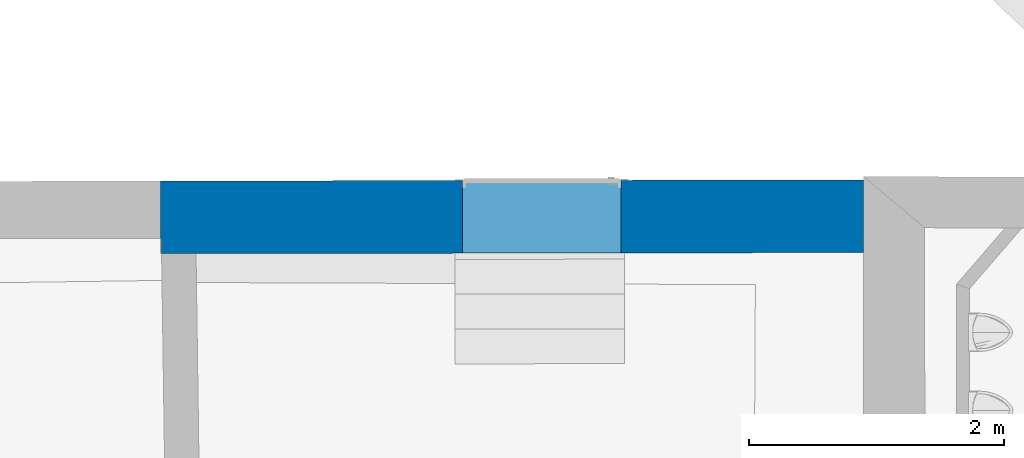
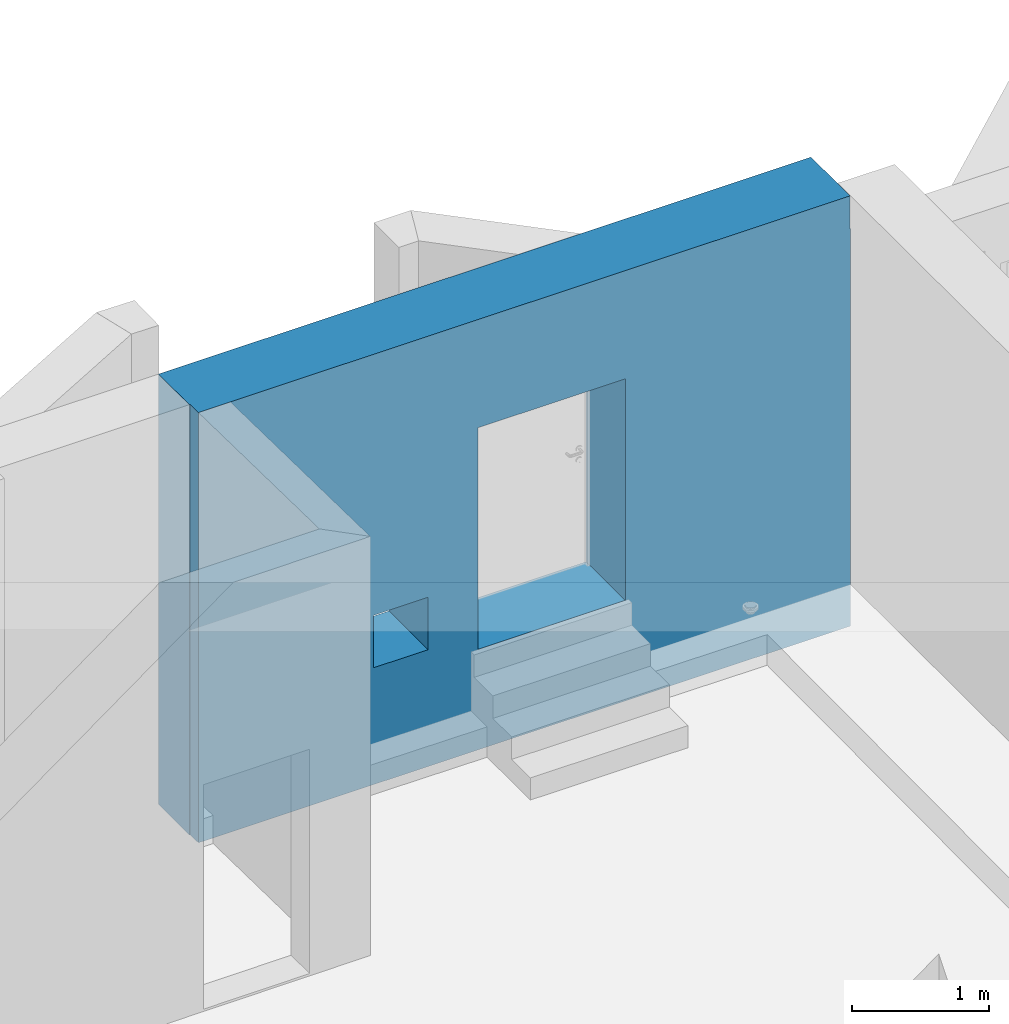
# One storey, part 102 of 196: 1 wall, 2 openings.
"""IFC2X3 building model written with IfcOpenShell, lengths in metres."""

from ifc_helpers import new_model, entity, si_unit, converted_unit, derived_unit, money_unit, direction, frame, origin_with_axes, origin_2d_with_axis, place, context, subcontext, project, spatial, polyline, rectangle, outline, extrude, boolean, faceted_brep, material, type_object, element, save


model = new_model("IFC2X3")

# Units and contexts
model_context = context("Model", 3, precision=1e-05, world=origin_with_axes(), true_north=direction((0.0, 1.0)))
body_context = subcontext(model_context, "Body", "Model", "MODEL_VIEW")
ifc_project = project(units=[si_unit("LENGTHUNIT", "METRE"), si_unit("AREAUNIT", "SQUARE_METRE"), si_unit("VOLUMEUNIT", "CUBIC_METRE"), converted_unit("PLANEANGLEUNIT", "DEGREE", entity("IfcPlaneAngleMeasure", 0.0174532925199), si_unit("PLANEANGLEUNIT", "RADIAN"), dimensions=[0, 0, 0, 0, 0, 0, 0]), money_unit("EUR"), converted_unit("TIMEUNIT", "Year", entity("IfcTimeMeasure", 31556926.0), si_unit("TIMEUNIT", "SECOND"), dimensions=[0, 0, 1, 0, 0, 0, 0]), si_unit("MASSUNIT", "GRAM", prefix="KILO"), si_unit("THERMODYNAMICTEMPERATUREUNIT", "DEGREE_CELSIUS"), si_unit("LUMINOUSINTENSITYUNIT", "LUMEN"), si_unit("ENERGYUNIT", "JOULE", prefix="MEGA"), derived_unit("THERMALCONDUCTANCEUNIT", [(si_unit("POWERUNIT", "WATT"), 1), (si_unit("LENGTHUNIT", "METRE"), -1), (si_unit("THERMODYNAMICTEMPERATUREUNIT", "KELVIN"), -1)]), derived_unit("SPECIFICHEATCAPACITYUNIT", [(si_unit("ENERGYUNIT", "JOULE"), 1), (si_unit("MASSUNIT", "GRAM", prefix="KILO"), -1), (si_unit("THERMODYNAMICTEMPERATUREUNIT", "KELVIN"), -1)]), derived_unit("MASSDENSITYUNIT", [(si_unit("MASSUNIT", "GRAM", prefix="KILO"), 1), (si_unit("VOLUMEUNIT", "CUBIC_METRE"), -1)])], contexts=[model_context])

# Site, building, storey
site_placement = place(None, origin_with_axes())
site = spatial("IfcSite", under=ifc_project, at=site_placement, Name="Gelände", CompositionType="ELEMENT")
building_placement = place(site_placement, origin_with_axes())
building = spatial("IfcBuilding", under=site, at=building_placement, Name="Gebäude", CompositionType="ELEMENT")
storey_placement = place(building_placement, frame((0.0, 0.0, -3.0), z_axis=(0.0, 0.0, 1.0), x_axis=(1.0, 0.0, 0.0)))
storey = spatial("IfcBuildingStorey", under=building, at=storey_placement, Name="KELLERGESCHOSS", CompositionType="ELEMENT", Elevation=-3.0)

# Wall, openings
ifc_material = material(Name="05_ALLGEMEIN - TRAGENDE BAUTEILE")
wall_type = type_object("IfcWallType", Name="05_ALLGEMEIN - TRAGENDE BAUTEILE 570", PredefinedType="ELEMENTEDWALL")
wall_placement = place(storey_placement, frame((12.5419676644, 26.2027547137, -0.36), z_axis=(0.0, 0.0, 1.0), x_axis=(-0.999998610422, -0.00166707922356, 0.0)))
wall = element("IfcWall", 1, at=wall_placement, inside=storey, type_object=wall_type, material=ifc_material, Name="Wand-036", ObjectType="ELEMENTEDWALL", context=body_context, shape_type="CSG", body=[
    boolean("DIFFERENCE", boolean("DIFFERENCE", extrude(outline(polyline([(-0.480000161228, 0.0), (5.5102635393, 0.0), (5.5102635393, 0.57), (-0.480000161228, 0.57), (-0.480000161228, 0.0)])), origin_with_axes(), (0.0, 0.0, 1.0), 3.835), faceted_brep([(5.50311510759, 0.57, 0.12), (5.50311510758, 0.570000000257, 3.55), (5.50311508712, 0.57, 3.835), (5.5102635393, 0.57, 3.835), (5.5102635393, 0.57, 0.0), (5.50311510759, 0.57, 0.0), (5.50462004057, 0.45, 0.12), (5.50462004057, 0.45, 3.55), (5.50462001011, 0.449999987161, 3.835), (5.5102635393, 0.449999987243, 3.835), (5.5102635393, 0.45, 0.0), (5.50462004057, 0.45, 0.0)], [[[0, 1, 2, 3, 4, 5]], [[1, 0, 6, 7]], [[8, 2, 1, 7]], [[8, 9, 3, 2]], [[9, 10, 4, 3]], [[11, 5, 4, 10]], [[0, 5, 11, 6]], [[9, 8, 7, 6, 11, 10]]])), faceted_brep([(0.00407026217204, 0.57, 3.835), (0.00407026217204, 0.57, 3.54), (0.000467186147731, 0.57, 3.54), (0.000467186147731, 0.57, 0.0), (-0.480000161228, 0.57, 0.0), (-0.480000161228, 0.57, 3.835), (0.00325223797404, 0.0, 3.835), (0.00325223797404, 0.0, 3.54), (0.0, 0.0, 3.54), (0.0, 0.0, 0.0), (-0.480000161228, 0.0, 0.0), (-0.480000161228, 0.0, 3.835)], [[[0, 1, 2, 3, 4, 5]], [[1, 0, 6, 7]], [[2, 1, 7, 8]], [[3, 2, 8, 9]], [[3, 9, 10, 4]], [[5, 4, 10, 11]], [[6, 0, 5, 11]], [[7, 6, 11, 10, 9, 8]]])),
])
opening_1_placement = place(wall_placement, frame((3.79600467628, 0.0, 1.04129753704), z_axis=(0.0, 0.0, 1.0), x_axis=(1.0, 0.0, 0.0)))
element("IfcOpeningElement", 2, at=opening_1_placement, cuts=wall, Name="Fenster-015", context=body_context, shape_type="SweptSolid", body=[
    extrude(rectangle(XDim=0.462077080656, YDim=0.467511, at=origin_2d_with_axis()), frame((0.0, -0.57, 0.2337555), z_axis=(0.0, -1.0, 0.0), x_axis=(1.0, 0.0, 0.0)), (0.0, 0.0, -1.0), 1.71),
])
opening_2_placement = place(wall_placement, frame((2.52173059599, 0.0, 0.896334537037), z_axis=(0.0, 0.0, 1.0), x_axis=(1.0, 0.0, 0.0)))
element("IfcOpeningElement", 3, at=opening_2_placement, cuts=wall, Name="Tür-023", context=body_context, shape_type="SweptSolid", body=[
    extrude(rectangle(XDim=1.24063963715, YDim=1.974543, at=origin_2d_with_axis()), frame((0.0, -0.57, 0.9872715), z_axis=(0.0, -1.0, 0.0), x_axis=(1.0, 0.0, 0.0)), (0.0, 0.0, -1.0), 1.71),
])

save(model, "model.ifc")
